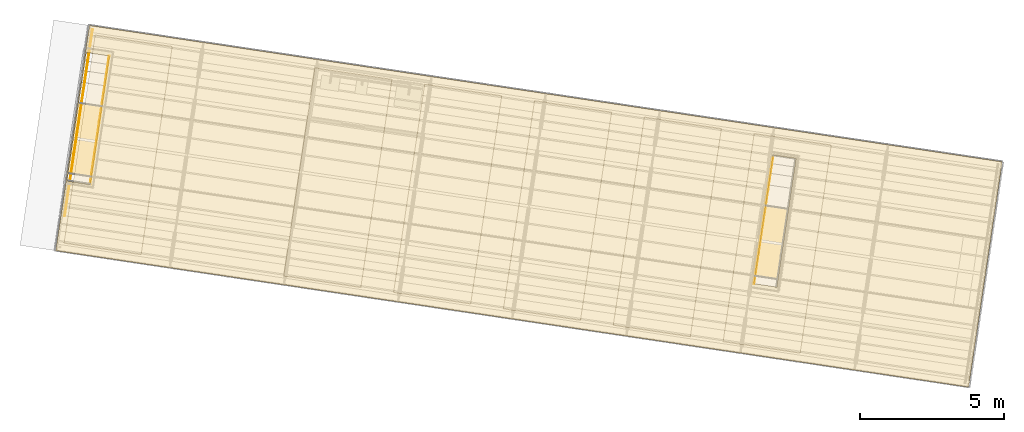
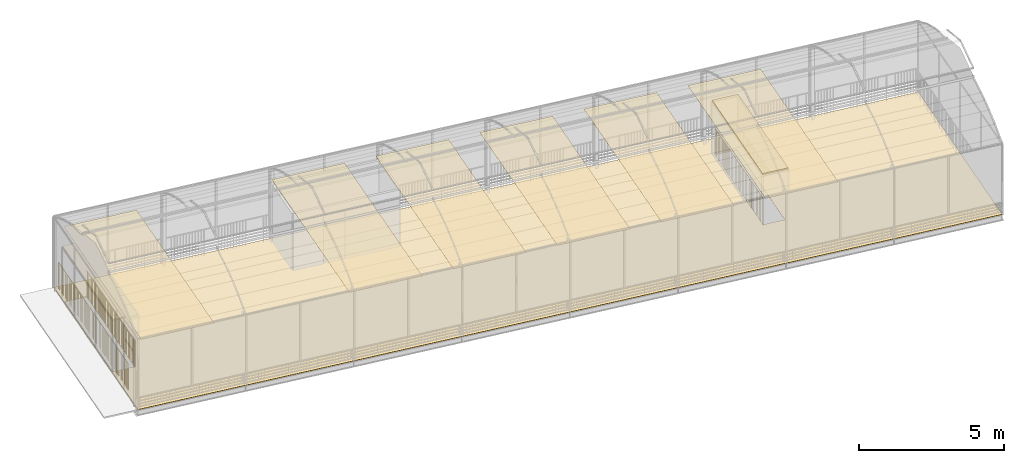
# One storey, part 31 of 34: 10 coverings, 3 railings, 4 openings.
"""IFC4 building model written with IfcOpenShell, lengths in metres."""

from ifc_helpers import new_model, si_unit, direction, frame, origin_with_axes, place, context, subcontext, project, spatial, polyline, circle, outline, extrude, material, element, save


model = new_model("IFC4")

# Units and contexts
model_context = context("Model", 3, precision=1e-05, world=origin_with_axes(), true_north=direction((0.0, 1.0)))
body_context = subcontext(model_context, "Body", "Model", "MODEL_VIEW")
ifc_project = project(units=[si_unit("VOLUMEUNIT", "CUBIC_METRE"), si_unit("LENGTHUNIT", "METRE"), si_unit("AREAUNIT", "SQUARE_METRE")], contexts=[model_context])

# Site, building, storey
site_placement = place(None, origin_with_axes())
site = spatial("IfcSite", under=ifc_project, at=site_placement, Name="Lares · Rua das Mercês · artigo 4771")
building_placement = place(site_placement, frame((12.0, 10.2, 13.9), z_axis=(0.0, 0.0, 1.0), x_axis=(0.989015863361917, -0.147809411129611, 0.0)))
building = spatial("IfcBuilding", under=site, at=building_placement, Name="Casa Sobreposta")
storey_placement = place(building_placement, frame((0.0, 0.0, 3.24), z_axis=(0.0, 0.0, 1.0), x_axis=(1.0, 0.0, 0.0)))
storey = spatial("IfcBuildingStorey", under=building, at=storey_placement, Name="01 · Jardim de inverno", Elevation=17.14)

# Covering, openings
ifc_material_1 = material(Name="Membrana impermeável — hipótese", Category="membrane")
covering_1_placement = place(storey_placement, frame((0.0, 0.0, -0.012), z_axis=(0.0, 0.0, 1.0), x_axis=(1.0, 0.0, 0.0)))
covering_1 = element("IfcCovering", 1, at=covering_1_placement, inside=storey, material=ifc_material_1, Name="Impermeabilização da estufa · hipótese", PredefinedType="FLOORING", context=body_context, shape_type="SweptSolid", body=[
    extrude(outline(polyline([(32.0, -1.5), (32.0, 6.4), (0.0, 6.4), (0.0, -1.5), (32.0, -1.5)])), origin_with_axes(), (0.0, 0.0, 1.0), 0.002),
])
opening_1_placement = place(covering_1_placement, frame((0.0, 0.0, -0.00999999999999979), z_axis=(0.0, 0.0, 1.0), x_axis=(1.0, 0.0, 0.0)))
element("IfcOpeningElement", 2, at=opening_1_placement, cuts=covering_1, Name="Vão de escada 1 · Impermeabilização da estufa · hipótese", PredefinedType="OPENING", context=body_context, shape_type="SweptSolid", body=[
    extrude(outline(polyline([(0.04, 0.9475), (0.84, 0.9475), (0.84, 5.4525), (0.04, 5.4525), (0.04, 0.9475)])), origin_with_axes(), (0.0, 0.0, 1.0), 0.022),
])
opening_2_placement = place(covering_1_placement, frame((0.0, 0.0, -0.00999999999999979), z_axis=(0.0, 0.0, 1.0), x_axis=(1.0, 0.0, 0.0)))
element("IfcOpeningElement", 3, at=opening_2_placement, cuts=covering_1, Name="Vão de escada 2 · Impermeabilização da estufa · hipótese", PredefinedType="OPENING", context=body_context, shape_type="SweptSolid", body=[
    extrude(outline(polyline([(24.91, 0.9475), (24.91, 5.4525), (24.11, 5.4525), (24.11, 0.9475), (24.91, 0.9475)])), origin_with_axes(), (0.0, 0.0, 1.0), 0.022),
])

ifc_material_2 = material(Name="Pavimento protetor leve — hipótese", Category="finish")
covering_2_placement = place(storey_placement, frame((0.0, 0.0, -0.00999999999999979), z_axis=(0.0, 0.0, 1.0), x_axis=(1.0, 0.0, 0.0)))
covering_2 = element("IfcCovering", 4, at=covering_2_placement, inside=storey, material=ifc_material_2, Name="Proteção do pavimento · hipótese", PredefinedType="FLOORING", context=body_context, shape_type="SweptSolid", body=[
    extrude(outline(polyline([(32.0, -1.5), (32.0, 6.4), (0.0, 6.4), (0.0, -1.5), (32.0, -1.5)])), origin_with_axes(), (0.0, 0.0, 1.0), 0.01),
])
opening_3_placement = place(covering_2_placement, frame((0.0, 0.0, -0.00999999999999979), z_axis=(0.0, 0.0, 1.0), x_axis=(1.0, 0.0, 0.0)))
element("IfcOpeningElement", 5, at=opening_3_placement, cuts=covering_2, Name="Vão de escada 1 · Proteção do pavimento · hipótese", PredefinedType="OPENING", context=body_context, shape_type="SweptSolid", body=[
    extrude(outline(polyline([(0.04, 0.9475), (0.84, 0.9475), (0.84, 5.4525), (0.04, 5.4525), (0.04, 0.9475)])), origin_with_axes(), (0.0, 0.0, 1.0), 0.03),
])
opening_4_placement = place(covering_2_placement, frame((0.0, 0.0, -0.00999999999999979), z_axis=(0.0, 0.0, 1.0), x_axis=(1.0, 0.0, 0.0)))
element("IfcOpeningElement", 6, at=opening_4_placement, cuts=covering_2, Name="Vão de escada 2 · Proteção do pavimento · hipótese", PredefinedType="OPENING", context=body_context, shape_type="SweptSolid", body=[
    extrude(outline(polyline([(24.91, 0.9475), (24.91, 5.4525), (24.11, 5.4525), (24.11, 0.9475), (24.91, 0.9475)])), origin_with_axes(), (0.0, 0.0, 1.0), 0.03),
])

# Railing
ifc_material_3 = material(Name="Aço pintado / Stahl lackiert", Category="steel")
railing_1_placement = place(storey_placement, frame((0.0, 0.0, -3.24), z_axis=(0.0, 0.0, 1.0), x_axis=(1.0, 0.0, 0.0)))
element("IfcRailing", 7, at=railing_1_placement, inside=storey, material=ifc_material_3, Name="Guarda perimetral da estufa", PredefinedType="GUARDRAIL", context=body_context, shape_type="SweptSolid", body=[
    extrude(circle(Radius=0.015), frame((0.13, 6.27, 4.34), z_axis=(0.0, -1.0, 0.0), x_axis=(-1.0, 0.0, 0.0)), (0.0, 0.0, 1.0), 6.52),
    extrude(circle(Radius=0.0175), frame((0.13, 6.27, 3.24), z_axis=(0.0, 0.0, 1.0), x_axis=(1.0, 0.0, 0.0)), (0.0, 0.0, 1.0), 1.1),
    extrude(circle(Radius=0.006), frame((0.13, 6.16133333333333, 3.24), z_axis=(0.0, 0.0, 1.0), x_axis=(1.0, 0.0, 0.0)), (0.0, 0.0, 1.0), 1.1),
    extrude(circle(Radius=0.006), frame((0.13, 6.05266666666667, 3.24), z_axis=(0.0, 0.0, 1.0), x_axis=(1.0, 0.0, 0.0)), (0.0, 0.0, 1.0), 1.1),
    extrude(circle(Radius=0.006), frame((0.13, 5.944, 3.24), z_axis=(0.0, 0.0, 1.0), x_axis=(1.0, 0.0, 0.0)), (0.0, 0.0, 1.0), 1.1),
    extrude(circle(Radius=0.006), frame((0.13, 5.83533333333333, 3.24), z_axis=(0.0, 0.0, 1.0), x_axis=(1.0, 0.0, 0.0)), (0.0, 0.0, 1.0), 1.1),
    extrude(circle(Radius=0.006), frame((0.13, 5.72666666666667, 3.24), z_axis=(0.0, 0.0, 1.0), x_axis=(1.0, 0.0, 0.0)), (0.0, 0.0, 1.0), 1.1),
    extrude(circle(Radius=0.006), frame((0.13, 5.618, 3.24), z_axis=(0.0, 0.0, 1.0), x_axis=(1.0, 0.0, 0.0)), (0.0, 0.0, 1.0), 1.1),
    extrude(circle(Radius=0.006), frame((0.13, 5.50933333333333, 3.24), z_axis=(0.0, 0.0, 1.0), x_axis=(1.0, 0.0, 0.0)), (0.0, 0.0, 1.0), 1.1),
    extrude(circle(Radius=0.006), frame((0.13, 5.40066666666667, 3.24), z_axis=(0.0, 0.0, 1.0), x_axis=(1.0, 0.0, 0.0)), (0.0, 0.0, 1.0), 1.1),
    extrude(circle(Radius=0.006), frame((0.13, 5.292, 3.24), z_axis=(0.0, 0.0, 1.0), x_axis=(1.0, 0.0, 0.0)), (0.0, 0.0, 1.0), 1.1),
    extrude(circle(Radius=0.0175), frame((0.13, 5.18333333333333, 3.24), z_axis=(0.0, 0.0, 1.0), x_axis=(1.0, 0.0, 0.0)), (0.0, 0.0, 1.0), 1.1),
    extrude(circle(Radius=0.006), frame((0.13, 5.07466666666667, 3.24), z_axis=(0.0, 0.0, 1.0), x_axis=(1.0, 0.0, 0.0)), (0.0, 0.0, 1.0), 1.1),
    extrude(circle(Radius=0.006), frame((0.13, 4.966, 3.24), z_axis=(0.0, 0.0, 1.0), x_axis=(1.0, 0.0, 0.0)), (0.0, 0.0, 1.0), 1.1),
    extrude(circle(Radius=0.006), frame((0.13, 4.85733333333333, 3.24), z_axis=(0.0, 0.0, 1.0), x_axis=(1.0, 0.0, 0.0)), (0.0, 0.0, 1.0), 1.1),
    extrude(circle(Radius=0.006), frame((0.13, 4.74866666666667, 3.24), z_axis=(0.0, 0.0, 1.0), x_axis=(1.0, 0.0, 0.0)), (0.0, 0.0, 1.0), 1.1),
    extrude(circle(Radius=0.006), frame((0.13, 4.64, 3.24), z_axis=(0.0, 0.0, 1.0), x_axis=(1.0, 0.0, 0.0)), (0.0, 0.0, 1.0), 1.1),
    extrude(circle(Radius=0.006), frame((0.13, 4.53133333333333, 3.24), z_axis=(0.0, 0.0, 1.0), x_axis=(1.0, 0.0, 0.0)), (0.0, 0.0, 1.0), 1.1),
    extrude(circle(Radius=0.006), frame((0.13, 4.42266666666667, 3.24), z_axis=(0.0, 0.0, 1.0), x_axis=(1.0, 0.0, 0.0)), (0.0, 0.0, 1.0), 1.1),
    extrude(circle(Radius=0.006), frame((0.13, 4.314, 3.24), z_axis=(0.0, 0.0, 1.0), x_axis=(1.0, 0.0, 0.0)), (0.0, 0.0, 1.0), 1.1),
    extrude(circle(Radius=0.006), frame((0.13, 4.20533333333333, 3.24), z_axis=(0.0, 0.0, 1.0), x_axis=(1.0, 0.0, 0.0)), (0.0, 0.0, 1.0), 1.1),
    extrude(circle(Radius=0.0175), frame((0.13, 4.09666666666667, 3.24), z_axis=(0.0, 0.0, 1.0), x_axis=(1.0, 0.0, 0.0)), (0.0, 0.0, 1.0), 1.1),
    extrude(circle(Radius=0.006), frame((0.13, 3.988, 3.24), z_axis=(0.0, 0.0, 1.0), x_axis=(1.0, 0.0, 0.0)), (0.0, 0.0, 1.0), 1.1),
    extrude(circle(Radius=0.006), frame((0.13, 3.87933333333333, 3.24), z_axis=(0.0, 0.0, 1.0), x_axis=(1.0, 0.0, 0.0)), (0.0, 0.0, 1.0), 1.1),
    extrude(circle(Radius=0.006), frame((0.13, 3.77066666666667, 3.24), z_axis=(0.0, 0.0, 1.0), x_axis=(1.0, 0.0, 0.0)), (0.0, 0.0, 1.0), 1.1),
    extrude(circle(Radius=0.006), frame((0.13, 3.662, 3.24), z_axis=(0.0, 0.0, 1.0), x_axis=(1.0, 0.0, 0.0)), (0.0, 0.0, 1.0), 1.1),
    extrude(circle(Radius=0.006), frame((0.13, 3.55333333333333, 3.24), z_axis=(0.0, 0.0, 1.0), x_axis=(1.0, 0.0, 0.0)), (0.0, 0.0, 1.0), 1.1),
    extrude(circle(Radius=0.006), frame((0.13, 3.44466666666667, 3.24), z_axis=(0.0, 0.0, 1.0), x_axis=(1.0, 0.0, 0.0)), (0.0, 0.0, 1.0), 1.1),
    extrude(circle(Radius=0.006), frame((0.13, 3.336, 3.24), z_axis=(0.0, 0.0, 1.0), x_axis=(1.0, 0.0, 0.0)), (0.0, 0.0, 1.0), 1.1),
    extrude(circle(Radius=0.006), frame((0.13, 3.22733333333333, 3.24), z_axis=(0.0, 0.0, 1.0), x_axis=(1.0, 0.0, 0.0)), (0.0, 0.0, 1.0), 1.1),
    extrude(circle(Radius=0.006), frame((0.13, 3.11866666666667, 3.24), z_axis=(0.0, 0.0, 1.0), x_axis=(1.0, 0.0, 0.0)), (0.0, 0.0, 1.0), 1.1),
    extrude(circle(Radius=0.0175), frame((0.13, 3.01, 3.24), z_axis=(0.0, 0.0, 1.0), x_axis=(1.0, 0.0, 0.0)), (0.0, 0.0, 1.0), 1.1),
    extrude(circle(Radius=0.006), frame((0.13, 2.90133333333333, 3.24), z_axis=(0.0, 0.0, 1.0), x_axis=(1.0, 0.0, 0.0)), (0.0, 0.0, 1.0), 1.1),
    extrude(circle(Radius=0.006), frame((0.13, 2.79266666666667, 3.24), z_axis=(0.0, 0.0, 1.0), x_axis=(1.0, 0.0, 0.0)), (0.0, 0.0, 1.0), 1.1),
    extrude(circle(Radius=0.006), frame((0.13, 2.684, 3.24), z_axis=(0.0, 0.0, 1.0), x_axis=(1.0, 0.0, 0.0)), (0.0, 0.0, 1.0), 1.1),
    extrude(circle(Radius=0.006), frame((0.13, 2.57533333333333, 3.24), z_axis=(0.0, 0.0, 1.0), x_axis=(1.0, 0.0, 0.0)), (0.0, 0.0, 1.0), 1.1),
    extrude(circle(Radius=0.006), frame((0.13, 2.46666666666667, 3.24), z_axis=(0.0, 0.0, 1.0), x_axis=(1.0, 0.0, 0.0)), (0.0, 0.0, 1.0), 1.1),
    extrude(circle(Radius=0.006), frame((0.13, 2.358, 3.24), z_axis=(0.0, 0.0, 1.0), x_axis=(1.0, 0.0, 0.0)), (0.0, 0.0, 1.0), 1.1),
    extrude(circle(Radius=0.006), frame((0.13, 2.24933333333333, 3.24), z_axis=(0.0, 0.0, 1.0), x_axis=(1.0, 0.0, 0.0)), (0.0, 0.0, 1.0), 1.1),
    extrude(circle(Radius=0.006), frame((0.13, 2.14066666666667, 3.24), z_axis=(0.0, 0.0, 1.0), x_axis=(1.0, 0.0, 0.0)), (0.0, 0.0, 1.0), 1.1),
    extrude(circle(Radius=0.006), frame((0.13, 2.032, 3.24), z_axis=(0.0, 0.0, 1.0), x_axis=(1.0, 0.0, 0.0)), (0.0, 0.0, 1.0), 1.1),
    extrude(circle(Radius=0.0175), frame((0.13, 1.92333333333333, 3.24), z_axis=(0.0, 0.0, 1.0), x_axis=(1.0, 0.0, 0.0)), (0.0, 0.0, 1.0), 1.1),
    extrude(circle(Radius=0.006), frame((0.13, 1.81466666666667, 3.24), z_axis=(0.0, 0.0, 1.0), x_axis=(1.0, 0.0, 0.0)), (0.0, 0.0, 1.0), 1.1),
    extrude(circle(Radius=0.006), frame((0.13, 1.706, 3.24), z_axis=(0.0, 0.0, 1.0), x_axis=(1.0, 0.0, 0.0)), (0.0, 0.0, 1.0), 1.1),
    extrude(circle(Radius=0.006), frame((0.13, 1.59733333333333, 3.24), z_axis=(0.0, 0.0, 1.0), x_axis=(1.0, 0.0, 0.0)), (0.0, 0.0, 1.0), 1.1),
    extrude(circle(Radius=0.006), frame((0.13, 1.48866666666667, 3.24), z_axis=(0.0, 0.0, 1.0), x_axis=(1.0, 0.0, 0.0)), (0.0, 0.0, 1.0), 1.1),
    extrude(circle(Radius=0.006), frame((0.13, 1.38, 3.24), z_axis=(0.0, 0.0, 1.0), x_axis=(1.0, 0.0, 0.0)), (0.0, 0.0, 1.0), 1.1),
    extrude(circle(Radius=0.006), frame((0.13, 1.27133333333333, 3.24), z_axis=(0.0, 0.0, 1.0), x_axis=(1.0, 0.0, 0.0)), (0.0, 0.0, 1.0), 1.1),
    extrude(circle(Radius=0.006), frame((0.13, 1.16266666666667, 3.24), z_axis=(0.0, 0.0, 1.0), x_axis=(1.0, 0.0, 0.0)), (0.0, 0.0, 1.0), 1.1),
    extrude(circle(Radius=0.006), frame((0.13, 1.054, 3.24), z_axis=(0.0, 0.0, 1.0), x_axis=(1.0, 0.0, 0.0)), (0.0, 0.0, 1.0), 1.1),
    extrude(circle(Radius=0.006), frame((0.13, 0.945333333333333, 3.24), z_axis=(0.0, 0.0, 1.0), x_axis=(1.0, 0.0, 0.0)), (0.0, 0.0, 1.0), 1.1),
    extrude(circle(Radius=0.0175), frame((0.13, 0.836666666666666, 3.24), z_axis=(0.0, 0.0, 1.0), x_axis=(1.0, 0.0, 0.0)), (0.0, 0.0, 1.0), 1.1),
    extrude(circle(Radius=0.006), frame((0.13, 0.728, 3.24), z_axis=(0.0, 0.0, 1.0), x_axis=(1.0, 0.0, 0.0)), (0.0, 0.0, 1.0), 1.1),
    extrude(circle(Radius=0.006), frame((0.13, 0.619333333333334, 3.24), z_axis=(0.0, 0.0, 1.0), x_axis=(1.0, 0.0, 0.0)), (0.0, 0.0, 1.0), 1.1),
    extrude(circle(Radius=0.006), frame((0.13, 0.510666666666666, 3.24), z_axis=(0.0, 0.0, 1.0), x_axis=(1.0, 0.0, 0.0)), (0.0, 0.0, 1.0), 1.1),
    extrude(circle(Radius=0.006), frame((0.13, 0.402, 3.24), z_axis=(0.0, 0.0, 1.0), x_axis=(1.0, 0.0, 0.0)), (0.0, 0.0, 1.0), 1.1),
    extrude(circle(Radius=0.006), frame((0.13, 0.293333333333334, 3.24), z_axis=(0.0, 0.0, 1.0), x_axis=(1.0, 0.0, 0.0)), (0.0, 0.0, 1.0), 1.1),
    extrude(circle(Radius=0.006), frame((0.13, 0.184666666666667, 3.24), z_axis=(0.0, 0.0, 1.0), x_axis=(1.0, 0.0, 0.0)), (0.0, 0.0, 1.0), 1.1),
    extrude(circle(Radius=0.006), frame((0.13, 0.0760000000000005, 3.24), z_axis=(0.0, 0.0, 1.0), x_axis=(1.0, 0.0, 0.0)), (0.0, 0.0, 1.0), 1.1),
    extrude(circle(Radius=0.006), frame((0.13, -0.0326666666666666, 3.24), z_axis=(0.0, 0.0, 1.0), x_axis=(1.0, 0.0, 0.0)), (0.0, 0.0, 1.0), 1.1),
    extrude(circle(Radius=0.006), frame((0.13, -0.141333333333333, 3.24), z_axis=(0.0, 0.0, 1.0), x_axis=(1.0, 0.0, 0.0)), (0.0, 0.0, 1.0), 1.1),
    extrude(circle(Radius=0.0175), frame((0.13, -0.25, 3.24), z_axis=(0.0, 0.0, 1.0), x_axis=(1.0, 0.0, 0.0)), (0.0, 0.0, 1.0), 1.1),
])

# Coverings
ifc_material_4 = material(Name="Tecido de sombreamento — hipótese", Category="fabric")
covering_3_placement = place(storey_placement, frame((0.0, 0.0, 2.68), z_axis=(0.0, 0.0, 1.0), x_axis=(1.0, 0.0, 0.0)))
element("IfcCovering", 8, at=covering_3_placement, inside=storey, material=ifc_material_4, Name="Cortina interior · 75%", ObjectType="Cortina interior · 75%", PredefinedType="USERDEFINED", context=body_context, shape_type="SweptSolid", body=[
    extrude(outline(polyline([(2.95, -1.2), (2.95, 6.1), (0.25, 6.1), (0.25, -1.2), (2.95, -1.2)])), origin_with_axes(), (0.0, 0.0, 1.0), 0.004),
])
covering_4_placement = place(storey_placement, frame((0.0, 0.0, 2.68), z_axis=(0.0, 0.0, 1.0), x_axis=(1.0, 0.0, 0.0)))
element("IfcCovering", 9, at=covering_4_placement, inside=storey, material=ifc_material_4, Name="Cortina interior · 75%", ObjectType="Cortina interior · 75%", PredefinedType="USERDEFINED", context=body_context, shape_type="SweptSolid", body=[
    extrude(outline(polyline([(10.65, -1.2), (10.65, 6.1), (7.95, 6.1), (7.95, -1.2), (10.65, -1.2)])), origin_with_axes(), (0.0, 0.0, 1.0), 0.004),
])
covering_5_placement = place(storey_placement, frame((0.0, 0.0, 2.68), z_axis=(0.0, 0.0, 1.0), x_axis=(1.0, 0.0, 0.0)))
element("IfcCovering", 10, at=covering_5_placement, inside=storey, material=ifc_material_4, Name="Cortina interior · 75%", ObjectType="Cortina interior · 75%", PredefinedType="USERDEFINED", context=body_context, shape_type="SweptSolid", body=[
    extrude(outline(polyline([(14.5, -1.2), (14.5, 6.1), (11.8, 6.1), (11.8, -1.2), (14.5, -1.2)])), origin_with_axes(), (0.0, 0.0, 1.0), 0.004),
])
covering_6_placement = place(storey_placement, frame((0.0, 0.0, 2.68), z_axis=(0.0, 0.0, 1.0), x_axis=(1.0, 0.0, 0.0)))
element("IfcCovering", 11, at=covering_6_placement, inside=storey, material=ifc_material_4, Name="Cortina interior · 75%", ObjectType="Cortina interior · 75%", PredefinedType="USERDEFINED", context=body_context, shape_type="SweptSolid", body=[
    extrude(outline(polyline([(18.35, -1.2), (18.35, 6.1), (15.65, 6.1), (15.65, -1.2), (18.35, -1.2)])), origin_with_axes(), (0.0, 0.0, 1.0), 0.004),
])
covering_7_placement = place(storey_placement, frame((0.0, 0.0, 2.68), z_axis=(0.0, 0.0, 1.0), x_axis=(1.0, 0.0, 0.0)))
element("IfcCovering", 12, at=covering_7_placement, inside=storey, material=ifc_material_4, Name="Cortina interior · 75%", ObjectType="Cortina interior · 75%", PredefinedType="USERDEFINED", context=body_context, shape_type="SweptSolid", body=[
    extrude(outline(polyline([(22.2, -1.2), (22.2, 6.1), (19.5, 6.1), (19.5, -1.2), (22.2, -1.2)])), origin_with_axes(), (0.0, 0.0, 1.0), 0.004),
])
covering_8_placement = place(storey_placement, frame((0.0, 0.0, 2.68), z_axis=(0.0, 0.0, 1.0), x_axis=(1.0, 0.0, 0.0)))
element("IfcCovering", 13, at=covering_8_placement, inside=storey, material=ifc_material_4, Name="Cortina interior · 75%", ObjectType="Cortina interior · 75%", PredefinedType="USERDEFINED", context=body_context, shape_type="SweptSolid", body=[
    extrude(outline(polyline([(26.05, -1.2), (26.05, 6.1), (23.35, 6.1), (23.35, -1.2), (26.05, -1.2)])), origin_with_axes(), (0.0, 0.0, 1.0), 0.004),
])

# Railings
railing_2_placement = place(storey_placement, frame((0.0, 0.0, -3.24), z_axis=(0.0, 0.0, 1.0), x_axis=(1.0, 0.0, 0.0)))
element("IfcRailing", 14, at=railing_2_placement, inside=storey, material=ifc_material_3, Name="Guarda do vazio", PredefinedType="GUARDRAIL", context=body_context, shape_type="SweptSolid", body=[
    extrude(circle(Radius=0.015), frame((0.84, 0.9475, 4.34), z_axis=(0.0, 1.0, 0.0), x_axis=(1.0, 0.0, 0.0)), (0.0, 0.0, 1.0), 4.505),
    extrude(circle(Radius=0.0175), frame((0.84, 0.9475, 3.24), z_axis=(0.0, 0.0, 1.0), x_axis=(1.0, 0.0, 0.0)), (0.0, 0.0, 1.0), 1.1),
    extrude(circle(Radius=0.006), frame((0.84, 1.05737804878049, 3.24), z_axis=(0.0, 0.0, 1.0), x_axis=(1.0, 0.0, 0.0)), (0.0, 0.0, 1.0), 1.1),
    extrude(circle(Radius=0.006), frame((0.84, 1.16725609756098, 3.24), z_axis=(0.0, 0.0, 1.0), x_axis=(1.0, 0.0, 0.0)), (0.0, 0.0, 1.0), 1.1),
    extrude(circle(Radius=0.006), frame((0.84, 1.27713414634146, 3.24), z_axis=(0.0, 0.0, 1.0), x_axis=(1.0, 0.0, 0.0)), (0.0, 0.0, 1.0), 1.1),
    extrude(circle(Radius=0.006), frame((0.84, 1.38701219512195, 3.24), z_axis=(0.0, 0.0, 1.0), x_axis=(1.0, 0.0, 0.0)), (0.0, 0.0, 1.0), 1.1),
    extrude(circle(Radius=0.006), frame((0.84, 1.49689024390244, 3.24), z_axis=(0.0, 0.0, 1.0), x_axis=(1.0, 0.0, 0.0)), (0.0, 0.0, 1.0), 1.1),
    extrude(circle(Radius=0.006), frame((0.84, 1.60676829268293, 3.24), z_axis=(0.0, 0.0, 1.0), x_axis=(1.0, 0.0, 0.0)), (0.0, 0.0, 1.0), 1.1),
    extrude(circle(Radius=0.006), frame((0.84, 1.71664634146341, 3.24), z_axis=(0.0, 0.0, 1.0), x_axis=(1.0, 0.0, 0.0)), (0.0, 0.0, 1.0), 1.1),
    extrude(circle(Radius=0.006), frame((0.84, 1.8265243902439, 3.24), z_axis=(0.0, 0.0, 1.0), x_axis=(1.0, 0.0, 0.0)), (0.0, 0.0, 1.0), 1.1),
    extrude(circle(Radius=0.006), frame((0.84, 1.93640243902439, 3.24), z_axis=(0.0, 0.0, 1.0), x_axis=(1.0, 0.0, 0.0)), (0.0, 0.0, 1.0), 1.1),
    extrude(circle(Radius=0.0175), frame((0.84, 2.04628048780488, 3.24), z_axis=(0.0, 0.0, 1.0), x_axis=(1.0, 0.0, 0.0)), (0.0, 0.0, 1.0), 1.1),
    extrude(circle(Radius=0.006), frame((0.84, 2.15615853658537, 3.24), z_axis=(0.0, 0.0, 1.0), x_axis=(1.0, 0.0, 0.0)), (0.0, 0.0, 1.0), 1.1),
    extrude(circle(Radius=0.006), frame((0.84, 2.26603658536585, 3.24), z_axis=(0.0, 0.0, 1.0), x_axis=(1.0, 0.0, 0.0)), (0.0, 0.0, 1.0), 1.1),
    extrude(circle(Radius=0.006), frame((0.84, 2.37591463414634, 3.24), z_axis=(0.0, 0.0, 1.0), x_axis=(1.0, 0.0, 0.0)), (0.0, 0.0, 1.0), 1.1),
    extrude(circle(Radius=0.006), frame((0.84, 2.48579268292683, 3.24), z_axis=(0.0, 0.0, 1.0), x_axis=(1.0, 0.0, 0.0)), (0.0, 0.0, 1.0), 1.1),
    extrude(circle(Radius=0.006), frame((0.84, 2.59567073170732, 3.24), z_axis=(0.0, 0.0, 1.0), x_axis=(1.0, 0.0, 0.0)), (0.0, 0.0, 1.0), 1.1),
    extrude(circle(Radius=0.006), frame((0.84, 2.7055487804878, 3.24), z_axis=(0.0, 0.0, 1.0), x_axis=(1.0, 0.0, 0.0)), (0.0, 0.0, 1.0), 1.1),
    extrude(circle(Radius=0.006), frame((0.84, 2.81542682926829, 3.24), z_axis=(0.0, 0.0, 1.0), x_axis=(1.0, 0.0, 0.0)), (0.0, 0.0, 1.0), 1.1),
    extrude(circle(Radius=0.006), frame((0.84, 2.92530487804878, 3.24), z_axis=(0.0, 0.0, 1.0), x_axis=(1.0, 0.0, 0.0)), (0.0, 0.0, 1.0), 1.1),
    extrude(circle(Radius=0.006), frame((0.84, 3.03518292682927, 3.24), z_axis=(0.0, 0.0, 1.0), x_axis=(1.0, 0.0, 0.0)), (0.0, 0.0, 1.0), 1.1),
    extrude(circle(Radius=0.0175), frame((0.84, 3.14506097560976, 3.24), z_axis=(0.0, 0.0, 1.0), x_axis=(1.0, 0.0, 0.0)), (0.0, 0.0, 1.0), 1.1),
    extrude(circle(Radius=0.006), frame((0.84, 3.25493902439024, 3.24), z_axis=(0.0, 0.0, 1.0), x_axis=(1.0, 0.0, 0.0)), (0.0, 0.0, 1.0), 1.1),
    extrude(circle(Radius=0.006), frame((0.84, 3.36481707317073, 3.24), z_axis=(0.0, 0.0, 1.0), x_axis=(1.0, 0.0, 0.0)), (0.0, 0.0, 1.0), 1.1),
    extrude(circle(Radius=0.006), frame((0.84, 3.47469512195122, 3.24), z_axis=(0.0, 0.0, 1.0), x_axis=(1.0, 0.0, 0.0)), (0.0, 0.0, 1.0), 1.1),
    extrude(circle(Radius=0.006), frame((0.84, 3.58457317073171, 3.24), z_axis=(0.0, 0.0, 1.0), x_axis=(1.0, 0.0, 0.0)), (0.0, 0.0, 1.0), 1.1),
    extrude(circle(Radius=0.006), frame((0.84, 3.6944512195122, 3.24), z_axis=(0.0, 0.0, 1.0), x_axis=(1.0, 0.0, 0.0)), (0.0, 0.0, 1.0), 1.1),
    extrude(circle(Radius=0.006), frame((0.84, 3.80432926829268, 3.24), z_axis=(0.0, 0.0, 1.0), x_axis=(1.0, 0.0, 0.0)), (0.0, 0.0, 1.0), 1.1),
    extrude(circle(Radius=0.006), frame((0.84, 3.91420731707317, 3.24), z_axis=(0.0, 0.0, 1.0), x_axis=(1.0, 0.0, 0.0)), (0.0, 0.0, 1.0), 1.1),
    extrude(circle(Radius=0.006), frame((0.84, 4.02408536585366, 3.24), z_axis=(0.0, 0.0, 1.0), x_axis=(1.0, 0.0, 0.0)), (0.0, 0.0, 1.0), 1.1),
    extrude(circle(Radius=0.006), frame((0.84, 4.13396341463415, 3.24), z_axis=(0.0, 0.0, 1.0), x_axis=(1.0, 0.0, 0.0)), (0.0, 0.0, 1.0), 1.1),
    extrude(circle(Radius=0.0175), frame((0.84, 4.24384146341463, 3.24), z_axis=(0.0, 0.0, 1.0), x_axis=(1.0, 0.0, 0.0)), (0.0, 0.0, 1.0), 1.1),
    extrude(circle(Radius=0.006), frame((0.84, 4.35371951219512, 3.24), z_axis=(0.0, 0.0, 1.0), x_axis=(1.0, 0.0, 0.0)), (0.0, 0.0, 1.0), 1.1),
    extrude(circle(Radius=0.006), frame((0.84, 4.46359756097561, 3.24), z_axis=(0.0, 0.0, 1.0), x_axis=(1.0, 0.0, 0.0)), (0.0, 0.0, 1.0), 1.1),
    extrude(circle(Radius=0.006), frame((0.84, 4.5734756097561, 3.24), z_axis=(0.0, 0.0, 1.0), x_axis=(1.0, 0.0, 0.0)), (0.0, 0.0, 1.0), 1.1),
    extrude(circle(Radius=0.006), frame((0.84, 4.68335365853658, 3.24), z_axis=(0.0, 0.0, 1.0), x_axis=(1.0, 0.0, 0.0)), (0.0, 0.0, 1.0), 1.1),
    extrude(circle(Radius=0.006), frame((0.84, 4.79323170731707, 3.24), z_axis=(0.0, 0.0, 1.0), x_axis=(1.0, 0.0, 0.0)), (0.0, 0.0, 1.0), 1.1),
    extrude(circle(Radius=0.006), frame((0.84, 4.90310975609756, 3.24), z_axis=(0.0, 0.0, 1.0), x_axis=(1.0, 0.0, 0.0)), (0.0, 0.0, 1.0), 1.1),
    extrude(circle(Radius=0.006), frame((0.84, 5.01298780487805, 3.24), z_axis=(0.0, 0.0, 1.0), x_axis=(1.0, 0.0, 0.0)), (0.0, 0.0, 1.0), 1.1),
    extrude(circle(Radius=0.006), frame((0.84, 5.12286585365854, 3.24), z_axis=(0.0, 0.0, 1.0), x_axis=(1.0, 0.0, 0.0)), (0.0, 0.0, 1.0), 1.1),
    extrude(circle(Radius=0.006), frame((0.84, 5.23274390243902, 3.24), z_axis=(0.0, 0.0, 1.0), x_axis=(1.0, 0.0, 0.0)), (0.0, 0.0, 1.0), 1.1),
    extrude(circle(Radius=0.0175), frame((0.84, 5.34262195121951, 3.24), z_axis=(0.0, 0.0, 1.0), x_axis=(1.0, 0.0, 0.0)), (0.0, 0.0, 1.0), 1.1),
    extrude(circle(Radius=0.006), frame((0.84, 5.4525, 3.24), z_axis=(0.0, 0.0, 1.0), x_axis=(1.0, 0.0, 0.0)), (0.0, 0.0, 1.0), 1.1),
])
railing_3_placement = place(storey_placement, frame((0.0, 0.0, -3.24), z_axis=(0.0, 0.0, 1.0), x_axis=(1.0, 0.0, 0.0)))
element("IfcRailing", 15, at=railing_3_placement, inside=storey, material=ifc_material_3, Name="Guarda do vazio", PredefinedType="GUARDRAIL", context=body_context, shape_type="SweptSolid", body=[
    extrude(circle(Radius=0.015), frame((24.11, 0.9475, 4.34), z_axis=(0.0, 1.0, 0.0), x_axis=(1.0, 0.0, 0.0)), (0.0, 0.0, 1.0), 4.505),
    extrude(circle(Radius=0.0175), frame((24.11, 0.9475, 3.24), z_axis=(0.0, 0.0, 1.0), x_axis=(1.0, 0.0, 0.0)), (0.0, 0.0, 1.0), 1.1),
    extrude(circle(Radius=0.006), frame((24.11, 1.05737804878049, 3.24), z_axis=(0.0, 0.0, 1.0), x_axis=(1.0, 0.0, 0.0)), (0.0, 0.0, 1.0), 1.1),
    extrude(circle(Radius=0.006), frame((24.11, 1.16725609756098, 3.24), z_axis=(0.0, 0.0, 1.0), x_axis=(1.0, 0.0, 0.0)), (0.0, 0.0, 1.0), 1.1),
    extrude(circle(Radius=0.006), frame((24.11, 1.27713414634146, 3.24), z_axis=(0.0, 0.0, 1.0), x_axis=(1.0, 0.0, 0.0)), (0.0, 0.0, 1.0), 1.1),
    extrude(circle(Radius=0.006), frame((24.11, 1.38701219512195, 3.24), z_axis=(0.0, 0.0, 1.0), x_axis=(1.0, 0.0, 0.0)), (0.0, 0.0, 1.0), 1.1),
    extrude(circle(Radius=0.006), frame((24.11, 1.49689024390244, 3.24), z_axis=(0.0, 0.0, 1.0), x_axis=(1.0, 0.0, 0.0)), (0.0, 0.0, 1.0), 1.1),
    extrude(circle(Radius=0.006), frame((24.11, 1.60676829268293, 3.24), z_axis=(0.0, 0.0, 1.0), x_axis=(1.0, 0.0, 0.0)), (0.0, 0.0, 1.0), 1.1),
    extrude(circle(Radius=0.006), frame((24.11, 1.71664634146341, 3.24), z_axis=(0.0, 0.0, 1.0), x_axis=(1.0, 0.0, 0.0)), (0.0, 0.0, 1.0), 1.1),
    extrude(circle(Radius=0.006), frame((24.11, 1.8265243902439, 3.24), z_axis=(0.0, 0.0, 1.0), x_axis=(1.0, 0.0, 0.0)), (0.0, 0.0, 1.0), 1.1),
    extrude(circle(Radius=0.006), frame((24.11, 1.93640243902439, 3.24), z_axis=(0.0, 0.0, 1.0), x_axis=(1.0, 0.0, 0.0)), (0.0, 0.0, 1.0), 1.1),
    extrude(circle(Radius=0.0175), frame((24.11, 2.04628048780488, 3.24), z_axis=(0.0, 0.0, 1.0), x_axis=(1.0, 0.0, 0.0)), (0.0, 0.0, 1.0), 1.1),
    extrude(circle(Radius=0.006), frame((24.11, 2.15615853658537, 3.24), z_axis=(0.0, 0.0, 1.0), x_axis=(1.0, 0.0, 0.0)), (0.0, 0.0, 1.0), 1.1),
    extrude(circle(Radius=0.006), frame((24.11, 2.26603658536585, 3.24), z_axis=(0.0, 0.0, 1.0), x_axis=(1.0, 0.0, 0.0)), (0.0, 0.0, 1.0), 1.1),
    extrude(circle(Radius=0.006), frame((24.11, 2.37591463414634, 3.24), z_axis=(0.0, 0.0, 1.0), x_axis=(1.0, 0.0, 0.0)), (0.0, 0.0, 1.0), 1.1),
    extrude(circle(Radius=0.006), frame((24.11, 2.48579268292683, 3.24), z_axis=(0.0, 0.0, 1.0), x_axis=(1.0, 0.0, 0.0)), (0.0, 0.0, 1.0), 1.1),
    extrude(circle(Radius=0.006), frame((24.11, 2.59567073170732, 3.24), z_axis=(0.0, 0.0, 1.0), x_axis=(1.0, 0.0, 0.0)), (0.0, 0.0, 1.0), 1.1),
    extrude(circle(Radius=0.006), frame((24.11, 2.7055487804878, 3.24), z_axis=(0.0, 0.0, 1.0), x_axis=(1.0, 0.0, 0.0)), (0.0, 0.0, 1.0), 1.1),
    extrude(circle(Radius=0.006), frame((24.11, 2.81542682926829, 3.24), z_axis=(0.0, 0.0, 1.0), x_axis=(1.0, 0.0, 0.0)), (0.0, 0.0, 1.0), 1.1),
    extrude(circle(Radius=0.006), frame((24.11, 2.92530487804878, 3.24), z_axis=(0.0, 0.0, 1.0), x_axis=(1.0, 0.0, 0.0)), (0.0, 0.0, 1.0), 1.1),
    extrude(circle(Radius=0.006), frame((24.11, 3.03518292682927, 3.24), z_axis=(0.0, 0.0, 1.0), x_axis=(1.0, 0.0, 0.0)), (0.0, 0.0, 1.0), 1.1),
    extrude(circle(Radius=0.0175), frame((24.11, 3.14506097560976, 3.24), z_axis=(0.0, 0.0, 1.0), x_axis=(1.0, 0.0, 0.0)), (0.0, 0.0, 1.0), 1.1),
    extrude(circle(Radius=0.006), frame((24.11, 3.25493902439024, 3.24), z_axis=(0.0, 0.0, 1.0), x_axis=(1.0, 0.0, 0.0)), (0.0, 0.0, 1.0), 1.1),
    extrude(circle(Radius=0.006), frame((24.11, 3.36481707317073, 3.24), z_axis=(0.0, 0.0, 1.0), x_axis=(1.0, 0.0, 0.0)), (0.0, 0.0, 1.0), 1.1),
    extrude(circle(Radius=0.006), frame((24.11, 3.47469512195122, 3.24), z_axis=(0.0, 0.0, 1.0), x_axis=(1.0, 0.0, 0.0)), (0.0, 0.0, 1.0), 1.1),
    extrude(circle(Radius=0.006), frame((24.11, 3.58457317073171, 3.24), z_axis=(0.0, 0.0, 1.0), x_axis=(1.0, 0.0, 0.0)), (0.0, 0.0, 1.0), 1.1),
    extrude(circle(Radius=0.006), frame((24.11, 3.6944512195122, 3.24), z_axis=(0.0, 0.0, 1.0), x_axis=(1.0, 0.0, 0.0)), (0.0, 0.0, 1.0), 1.1),
    extrude(circle(Radius=0.006), frame((24.11, 3.80432926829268, 3.24), z_axis=(0.0, 0.0, 1.0), x_axis=(1.0, 0.0, 0.0)), (0.0, 0.0, 1.0), 1.1),
    extrude(circle(Radius=0.006), frame((24.11, 3.91420731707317, 3.24), z_axis=(0.0, 0.0, 1.0), x_axis=(1.0, 0.0, 0.0)), (0.0, 0.0, 1.0), 1.1),
    extrude(circle(Radius=0.006), frame((24.11, 4.02408536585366, 3.24), z_axis=(0.0, 0.0, 1.0), x_axis=(1.0, 0.0, 0.0)), (0.0, 0.0, 1.0), 1.1),
    extrude(circle(Radius=0.006), frame((24.11, 4.13396341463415, 3.24), z_axis=(0.0, 0.0, 1.0), x_axis=(1.0, 0.0, 0.0)), (0.0, 0.0, 1.0), 1.1),
    extrude(circle(Radius=0.0175), frame((24.11, 4.24384146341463, 3.24), z_axis=(0.0, 0.0, 1.0), x_axis=(1.0, 0.0, 0.0)), (0.0, 0.0, 1.0), 1.1),
    extrude(circle(Radius=0.006), frame((24.11, 4.35371951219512, 3.24), z_axis=(0.0, 0.0, 1.0), x_axis=(1.0, 0.0, 0.0)), (0.0, 0.0, 1.0), 1.1),
    extrude(circle(Radius=0.006), frame((24.11, 4.46359756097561, 3.24), z_axis=(0.0, 0.0, 1.0), x_axis=(1.0, 0.0, 0.0)), (0.0, 0.0, 1.0), 1.1),
    extrude(circle(Radius=0.006), frame((24.11, 4.5734756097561, 3.24), z_axis=(0.0, 0.0, 1.0), x_axis=(1.0, 0.0, 0.0)), (0.0, 0.0, 1.0), 1.1),
    extrude(circle(Radius=0.006), frame((24.11, 4.68335365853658, 3.24), z_axis=(0.0, 0.0, 1.0), x_axis=(1.0, 0.0, 0.0)), (0.0, 0.0, 1.0), 1.1),
    extrude(circle(Radius=0.006), frame((24.11, 4.79323170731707, 3.24), z_axis=(0.0, 0.0, 1.0), x_axis=(1.0, 0.0, 0.0)), (0.0, 0.0, 1.0), 1.1),
    extrude(circle(Radius=0.006), frame((24.11, 4.90310975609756, 3.24), z_axis=(0.0, 0.0, 1.0), x_axis=(1.0, 0.0, 0.0)), (0.0, 0.0, 1.0), 1.1),
    extrude(circle(Radius=0.006), frame((24.11, 5.01298780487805, 3.24), z_axis=(0.0, 0.0, 1.0), x_axis=(1.0, 0.0, 0.0)), (0.0, 0.0, 1.0), 1.1),
    extrude(circle(Radius=0.006), frame((24.11, 5.12286585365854, 3.24), z_axis=(0.0, 0.0, 1.0), x_axis=(1.0, 0.0, 0.0)), (0.0, 0.0, 1.0), 1.1),
    extrude(circle(Radius=0.006), frame((24.11, 5.23274390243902, 3.24), z_axis=(0.0, 0.0, 1.0), x_axis=(1.0, 0.0, 0.0)), (0.0, 0.0, 1.0), 1.1),
    extrude(circle(Radius=0.0175), frame((24.11, 5.34262195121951, 3.24), z_axis=(0.0, 0.0, 1.0), x_axis=(1.0, 0.0, 0.0)), (0.0, 0.0, 1.0), 1.1),
    extrude(circle(Radius=0.006), frame((24.11, 5.4525, 3.24), z_axis=(0.0, 0.0, 1.0), x_axis=(1.0, 0.0, 0.0)), (0.0, 0.0, 1.0), 1.1),
])

# Coverings
covering_9_placement = place(storey_placement, frame((0.0, 0.0, 2.2), z_axis=(0.0, 0.0, 1.0), x_axis=(1.0, 0.0, 0.0)))
element("IfcCovering", 16, at=covering_9_placement, inside=storey, material=ifc_material_2, Name="Teto caixa térmica 1", PredefinedType="CEILING", context=body_context, shape_type="SweptSolid", body=[
    extrude(outline(polyline([(0.96, 0.85), (0.96, 5.6), (0.01, 5.6), (0.01, 0.85), (0.96, 0.85)])), origin_with_axes(), (0.0, 0.0, 1.0), 0.06),
])
covering_10_placement = place(storey_placement, frame((0.0, 0.0, 2.2), z_axis=(0.0, 0.0, 1.0), x_axis=(1.0, 0.0, 0.0)))
element("IfcCovering", 17, at=covering_10_placement, inside=storey, material=ifc_material_2, Name="Teto caixa térmica 2", PredefinedType="CEILING", context=body_context, shape_type="SweptSolid", body=[
    extrude(outline(polyline([(24.99, 0.8), (24.99, 5.55), (24.03, 5.55), (24.03, 0.8), (24.99, 0.8)])), origin_with_axes(), (0.0, 0.0, 1.0), 0.06),
])

save(model, "model.ifc")
